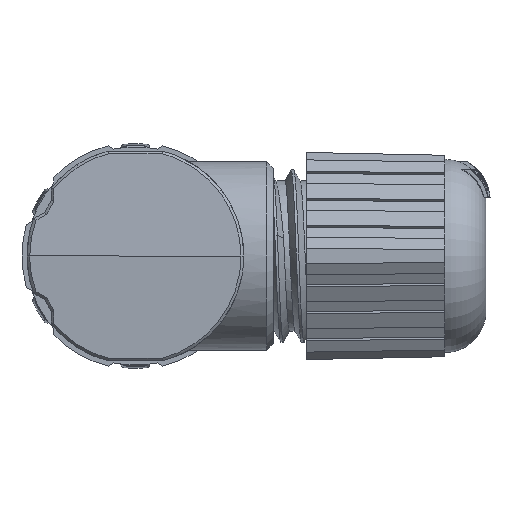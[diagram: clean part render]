
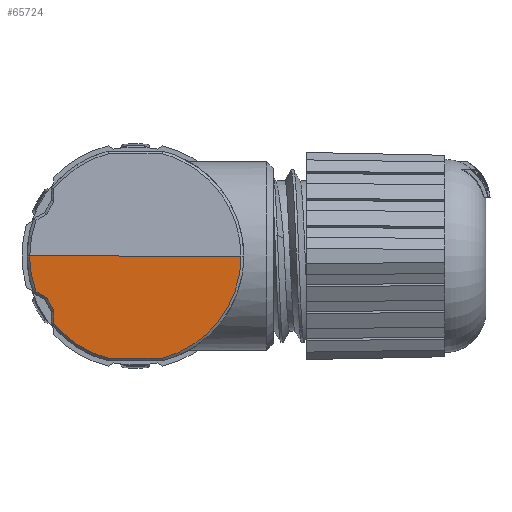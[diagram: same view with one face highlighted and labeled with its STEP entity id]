
A CAD part, left-side view. The second image highlights one B-rep face of the part: STEP entity #65724.
In plain terms, the highlighted planar face has unit normal (-0.999, 0, -0.052).
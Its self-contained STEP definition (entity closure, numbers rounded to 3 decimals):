
#11947=DIRECTION('',(0.,-1.,0.));
#11948=VECTOR('',#11947,15.3);
#11949=CARTESIAN_POINT('',(30.087,5.173,
0.));
#11950=LINE('',#11949,#11948);
#11955=CARTESIAN_POINT('',(30.087,5.173,
0.));
#12300=CARTESIAN_POINT('',(30.157,5.057,
-1.339));
#12301=CARTESIAN_POINT('',(30.172,5.007,
-1.623));
#12302=CARTESIAN_POINT('',(30.194,4.909,
-2.039));
#12303=CARTESIAN_POINT('',(30.215,4.777,
-2.445));
#12304=CARTESIAN_POINT('',(30.222,4.731,
-2.574));
#12306=CARTESIAN_POINT('',(30.087,5.173,
0.));
#12307=CARTESIAN_POINT('',(30.089,5.173,
-0.043));
#12308=CARTESIAN_POINT('',(30.113,5.17,
-0.494));
#12309=CARTESIAN_POINT('',(30.136,5.127,
-0.942));
#12310=CARTESIAN_POINT('',(30.157,5.057,
-1.339));
#12312=CARTESIAN_POINT('',(30.332,-8.533,
-4.685));
#12313=CARTESIAN_POINT('',(30.316,-8.781,
-4.364));
#12314=CARTESIAN_POINT('',(30.28,-9.227,
-3.68));
#12315=CARTESIAN_POINT('',(30.221,-9.725,
-2.558));
#12316=CARTESIAN_POINT('',(30.159,-10.038,
-1.372));
#12317=CARTESIAN_POINT('',(30.114,-10.123,
-0.508));
#12318=CARTESIAN_POINT('',(30.09,-10.127,
-0.05));
#12319=CARTESIAN_POINT('',(30.087,-10.127,
0.));
#12321=CARTESIAN_POINT('',(30.475,-4.417,
-7.41));
#12322=CARTESIAN_POINT('',(30.474,-4.547,
-7.376));
#12323=CARTESIAN_POINT('',(30.466,-5.047,
-7.231));
#12324=CARTESIAN_POINT('',(30.448,-5.889,
-6.89));
#12325=CARTESIAN_POINT('',(30.417,-6.889,
-6.296));
#12326=CARTESIAN_POINT('',(30.378,-7.786,
-5.559));
#12327=CARTESIAN_POINT('',(30.348,-8.3,
-4.987));
#12328=CARTESIAN_POINT('',(30.332,-8.533,
-4.685));
#12330=DIRECTION('',(0.,1.,0.));
#12331=VECTOR('',#12330,3.879);
#12332=CARTESIAN_POINT('',(30.475,-4.417,
-7.41));
#12333=LINE('',#12332,#12331);
#12334=CARTESIAN_POINT('',(30.424,1.682,
-6.431));
#12335=CARTESIAN_POINT('',(30.436,1.339,
-6.654));
#12336=CARTESIAN_POINT('',(30.456,0.623,
-7.04));
#12337=CARTESIAN_POINT('',(30.47,-0.148,
-7.308));
#12338=CARTESIAN_POINT('',(30.475,-0.537,
-7.41));
#12340=CARTESIAN_POINT('',(30.343,3.423,
-4.88));
#12341=CARTESIAN_POINT('',(30.348,3.344,
-4.975));
#12342=CARTESIAN_POINT('',(30.357,3.185,
-5.158));
#12343=CARTESIAN_POINT('',(30.37,2.946,
-5.409));
#12344=CARTESIAN_POINT('',(30.383,2.705,
-5.641));
#12345=CARTESIAN_POINT('',(30.394,2.46,
-5.857));
#12346=CARTESIAN_POINT('',(30.405,2.21,
-6.06));
#12347=CARTESIAN_POINT('',(30.415,1.953,
-6.251));
#12348=CARTESIAN_POINT('',(30.421,1.773,
-6.372));
#12349=CARTESIAN_POINT('',(30.424,1.682,
-6.431));
#12351=DIRECTION('',(0.052,0.,-0.999));
#12352=VECTOR('',#12351,0.921);
#12353=CARTESIAN_POINT('',(30.294,3.423,
-3.96));
#12354=LINE('',#12353,#12352);
#12355=CARTESIAN_POINT('',(30.245,3.952,
-3.023));
#12356=CARTESIAN_POINT('',(30.254,3.876,
-3.186));
#12357=CARTESIAN_POINT('',(30.271,3.711,
-3.505));
#12358=CARTESIAN_POINT('',(30.287,3.523,
-3.811));
#12359=CARTESIAN_POINT('',(30.294,3.423,
-3.96));
#12361=DIRECTION('',(0.026,-0.866,-0.5));
#12362=VECTOR('',#12361,0.9);
#12363=CARTESIAN_POINT('',(30.222,4.731,
-2.574));
#12364=LINE('',#12363,#12362);
#43842=VERTEX_POINT('',#11955);
#43847=VERTEX_POINT('',#12300);
#43848=VERTEX_POINT('',#12304);
#43851=CARTESIAN_POINT('',(30.245,3.952,
-3.023));
#43852=VERTEX_POINT('',#43851);
#43853=VERTEX_POINT('',#12359);
#43854=CARTESIAN_POINT('',(30.343,3.423,
-4.88));
#43855=VERTEX_POINT('',#43854);
#43862=VERTEX_POINT('',#12334);
#43863=VERTEX_POINT('',#12338);
#43864=CARTESIAN_POINT('',(30.475,-4.417,
-7.41));
#43865=VERTEX_POINT('',#43864);
#43868=VERTEX_POINT('',#12328);
#43871=VERTEX_POINT('',#12319);
#65697=CARTESIAN_POINT('',(30.087,5.379,0.));
#65698=DIRECTION('',(0.999,0.,0.052));
#65699=DIRECTION('',(0.,1.,0.));
#65700=AXIS2_PLACEMENT_3D('',#65697,#65698,#65699);
#65701=PLANE('',#65700);
#65703=ORIENTED_EDGE('',*,*,#65702,.F.);
#65705=ORIENTED_EDGE('',*,*,#65704,.F.);
#65706=ORIENTED_EDGE('',*,*,#65308,.T.);
#65708=ORIENTED_EDGE('',*,*,#65707,.F.);
#65709=ORIENTED_EDGE('',*,*,#65680,.F.);
#65711=ORIENTED_EDGE('',*,*,#65710,.T.);
#65713=ORIENTED_EDGE('',*,*,#65712,.F.);
#65715=ORIENTED_EDGE('',*,*,#65714,.F.);
#65717=ORIENTED_EDGE('',*,*,#65716,.F.);
#65719=ORIENTED_EDGE('',*,*,#65718,.F.);
#65721=ORIENTED_EDGE('',*,*,#65720,.F.);
#65722=EDGE_LOOP('',(#65703,#65705,#65706,#65708,#65709,#65711,#65713,#65715,
#65717,#65719,#65721));
#65723=FACE_OUTER_BOUND('',#65722,.F.);
#65724=ADVANCED_FACE('',(#65723),#65701,.F.);
#12305=B_SPLINE_CURVE_WITH_KNOTS('',3,(#12300,#12301,#12302,#12303,#12304),
.UNSPECIFIED.,.F.,.F.,(4,1,4),(0.,0.679,1.),.UNSPECIFIED.);
#12311=B_SPLINE_CURVE_WITH_KNOTS('',3,(#12306,#12307,#12308,#12309,#12310),
.UNSPECIFIED.,.F.,.F.,(4,1,4),(0.,0.096,1.),.UNSPECIFIED.);
#12320=B_SPLINE_CURVE_WITH_KNOTS('',3,(#12312,#12313,#12314,#12315,#12316,
#12317,#12318,#12319),.UNSPECIFIED.,.F.,.F.,(4,1,1,1,1,4),(0.,
0.243,0.485,0.728,0.97,1.),
.UNSPECIFIED.);
#12329=B_SPLINE_CURVE_WITH_KNOTS('',3,(#12321,#12322,#12323,#12324,#12325,
#12326,#12327,#12328),.UNSPECIFIED.,.F.,.F.,(4,1,1,1,1,4),(0.,
0.08,0.31,0.54,0.77,1.),
.UNSPECIFIED.);
#12339=B_SPLINE_CURVE_WITH_KNOTS('',3,(#12334,#12335,#12336,#12337,#12338),
.UNSPECIFIED.,.F.,.F.,(4,1,4),(0.,0.505,1.),.UNSPECIFIED.);
#12350=B_SPLINE_CURVE_WITH_KNOTS('',3,(#12340,#12341,#12342,#12343,#12344,
#12345,#12346,#12347,#12348,#12349),.UNSPECIFIED.,.F.,.F.,(4,1,1,1,1,1,1,4),(
0.,0.143,0.286,0.429,0.571,
0.714,0.857,1.),.UNSPECIFIED.);
#12360=B_SPLINE_CURVE_WITH_KNOTS('',3,(#12355,#12356,#12357,#12358,#12359),
.UNSPECIFIED.,.F.,.F.,(4,1,4),(0.,0.499,1.),.UNSPECIFIED.);
#65308=EDGE_CURVE('',#43842,#43871,#11950,.T.);
#65680=EDGE_CURVE('',#43865,#43868,#12329,.T.);
#65702=EDGE_CURVE('',#43847,#43848,#12305,.T.);
#65704=EDGE_CURVE('',#43842,#43847,#12311,.T.);
#65707=EDGE_CURVE('',#43868,#43871,#12320,.T.);
#65710=EDGE_CURVE('',#43865,#43863,#12333,.T.);
#65712=EDGE_CURVE('',#43862,#43863,#12339,.T.);
#65714=EDGE_CURVE('',#43855,#43862,#12350,.T.);
#65716=EDGE_CURVE('',#43853,#43855,#12354,.T.);
#65718=EDGE_CURVE('',#43852,#43853,#12360,.T.);
#65720=EDGE_CURVE('',#43848,#43852,#12364,.T.);
